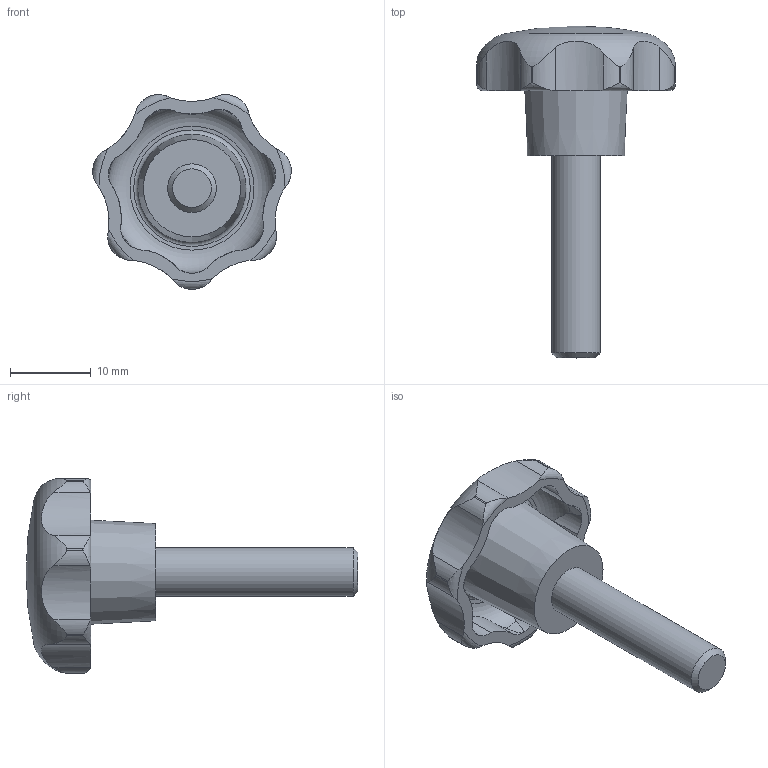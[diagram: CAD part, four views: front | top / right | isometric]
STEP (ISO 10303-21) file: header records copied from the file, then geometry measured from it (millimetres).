
FILE_DESCRIPTION( ( 'STEP AP203' ), '1' );
FILE_NAME( 'C:/Temp/Ganter_Step_05_03_2020/data/2_2/gn_6336_4/gn_6336_4_st/Star knob GN 6336.4-ST-25-M6-25.stp', '2020-03-05T12:07:16', ( 'License CC BY-ND 4.0' ), ( 'CADENAS' ), ' ', 'PARTsolutions', ' ' );
FILE_SCHEMA( ( 'CONFIG_CONTROL_DESIGN' ) );
Length unit declared in the file: millimetre
Products named in the file (1): _Star knob GN 6336.4-ST-25-M6-25
Bounding box: 24.52 x 41 x 24.06 mm (x, y, z)
Volume: 3832.1 mm3; surface area: 2484 mm2
Topology: 1 solids, 1 shells, 74 faces, 209 edges, 138 vertices
Faces by surface type: cylinder 50, torus 10, cone 10, plane 3, sphere 1
Full cylindrical faces by diameter (mm): 6 x1
Entity records: 3129 total; most frequent: CARTESIAN_POINT 1317, ORIENTED_EDGE 394, DIRECTION 336, EDGE_CURVE 197, AXIS2_PLACEMENT_3D 147, VERTEX_POINT 135, EDGE_LOOP 83, B_SPLINE_CURVE_WITH_KNOTS 83
